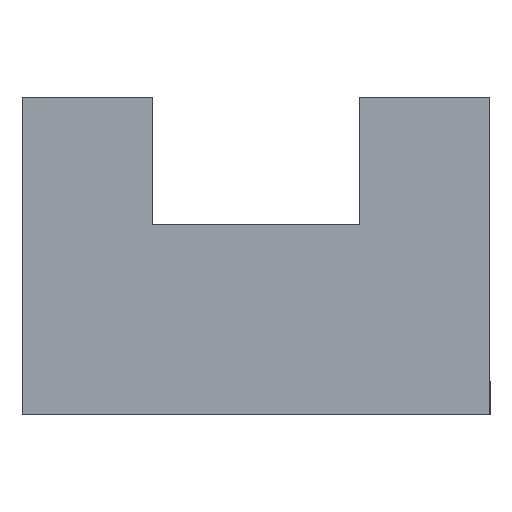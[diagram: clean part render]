
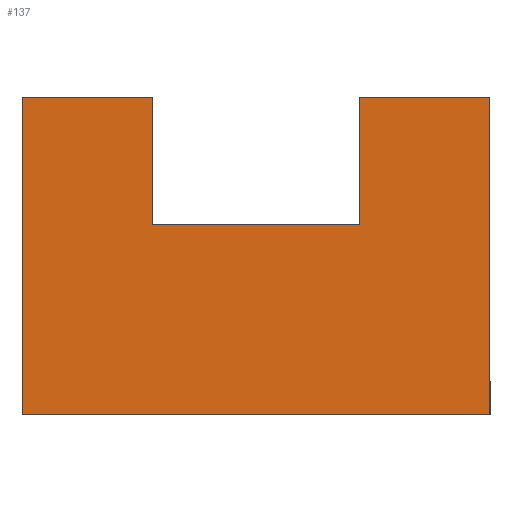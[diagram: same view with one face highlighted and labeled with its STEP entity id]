
A CAD part, left-side view. The second image highlights one B-rep face of the part: STEP entity #137.
In plain terms, the highlighted planar face has unit normal (-1, 0, 0).
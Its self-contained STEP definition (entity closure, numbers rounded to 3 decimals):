
#21 = EDGE_CURVE('',#22,#24,#26,.T.);
#22 = VERTEX_POINT('',#23);
#23 = CARTESIAN_POINT('',(-31.,-14.,0.));
#24 = VERTEX_POINT('',#25);
#25 = CARTESIAN_POINT('',(-31.,14.,0.));
#26 = SURFACE_CURVE('',#27,(#31,#43),.PCURVE_S1.);
#27 = LINE('',#28,#29);
#28 = CARTESIAN_POINT('',(-31.,-14.,0.));
#29 = VECTOR('',#30,1.);
#30 = DIRECTION('',(0.,1.,0.));
#31 = PCURVE('',#32,#37);
#32 = PLANE('',#33);
#33 = AXIS2_PLACEMENT_3D('',#34,#35,#36);
#34 = CARTESIAN_POINT('',(-31.,-14.,0.));
#35 = DIRECTION('',(0.,0.,1.));
#36 = DIRECTION('',(1.,0.,0.));
#37 = DEFINITIONAL_REPRESENTATION('',(#38),#42);
#38 = LINE('',#39,#40);
#39 = CARTESIAN_POINT('',(0.,0.));
#40 = VECTOR('',#41,1.);
#41 = DIRECTION('',(0.,1.));
#42 = ( GEOMETRIC_REPRESENTATION_CONTEXT(2) 
PARAMETRIC_REPRESENTATION_CONTEXT() REPRESENTATION_CONTEXT('2D SPACE',''
  ) );
#43 = PCURVE('',#44,#49);
#44 = PLANE('',#45);
#45 = AXIS2_PLACEMENT_3D('',#46,#47,#48);
#46 = CARTESIAN_POINT('',(-31.,26.,0.));
#47 = DIRECTION('',(1.,0.,-0.));
#48 = DIRECTION('',(0.,-1.,0.));
#49 = DEFINITIONAL_REPRESENTATION('',(#50),#54);
#50 = LINE('',#51,#52);
#51 = CARTESIAN_POINT('',(40.,0.));
#52 = VECTOR('',#53,1.);
#53 = DIRECTION('',(-1.,0.));
#54 = ( GEOMETRIC_REPRESENTATION_CONTEXT(2) 
PARAMETRIC_REPRESENTATION_CONTEXT() REPRESENTATION_CONTEXT('2D SPACE',''
  ) );
#72 = PLANE('',#73);
#73 = AXIS2_PLACEMENT_3D('',#74,#75,#76);
#74 = CARTESIAN_POINT('',(-31.,-14.,0.));
#75 = DIRECTION('',(0.,1.,0.));
#76 = DIRECTION('',(0.,0.,1.));
#126 = PLANE('',#127);
#127 = AXIS2_PLACEMENT_3D('',#128,#129,#130);
#128 = CARTESIAN_POINT('',(-31.,14.,0.));
#129 = DIRECTION('',(0.,1.,0.));
#130 = DIRECTION('',(0.,0.,1.));
#137 = ADVANCED_FACE('',(#138),#44,.F.);
#138 = FACE_BOUND('',#139,.F.);
#139 = EDGE_LOOP('',(#140,#141,#164,#192,#218,#244,#270,#298));
#140 = ORIENTED_EDGE('',*,*,#21,.T.);
#141 = ORIENTED_EDGE('',*,*,#142,.T.);
#142 = EDGE_CURVE('',#24,#143,#145,.T.);
#143 = VERTEX_POINT('',#144);
#144 = CARTESIAN_POINT('',(-31.,14.,19.));
#145 = SURFACE_CURVE('',#146,(#150,#157),.PCURVE_S1.);
#146 = LINE('',#147,#148);
#147 = CARTESIAN_POINT('',(-31.,14.,0.));
#148 = VECTOR('',#149,1.);
#149 = DIRECTION('',(0.,0.,1.));
#150 = PCURVE('',#44,#151);
#151 = DEFINITIONAL_REPRESENTATION('',(#152),#156);
#152 = LINE('',#153,#154);
#153 = CARTESIAN_POINT('',(12.,0.));
#154 = VECTOR('',#155,1.);
#155 = DIRECTION('',(0.,-1.));
#156 = ( GEOMETRIC_REPRESENTATION_CONTEXT(2) 
PARAMETRIC_REPRESENTATION_CONTEXT() REPRESENTATION_CONTEXT('2D SPACE',''
  ) );
#157 = PCURVE('',#126,#158);
#158 = DEFINITIONAL_REPRESENTATION('',(#159),#163);
#159 = LINE('',#160,#161);
#160 = CARTESIAN_POINT('',(0.,0.));
#161 = VECTOR('',#162,1.);
#162 = DIRECTION('',(1.,0.));
#163 = ( GEOMETRIC_REPRESENTATION_CONTEXT(2) 
PARAMETRIC_REPRESENTATION_CONTEXT() REPRESENTATION_CONTEXT('2D SPACE',''
  ) );
#164 = ORIENTED_EDGE('',*,*,#165,.F.);
#165 = EDGE_CURVE('',#166,#143,#168,.T.);
#166 = VERTEX_POINT('',#167);
#167 = CARTESIAN_POINT('',(-31.,6.2,19.));
#168 = SURFACE_CURVE('',#169,(#173,#180),.PCURVE_S1.);
#169 = LINE('',#170,#171);
#170 = CARTESIAN_POINT('',(-31.,-14.,19.));
#171 = VECTOR('',#172,1.);
#172 = DIRECTION('',(0.,1.,0.));
#173 = PCURVE('',#44,#174);
#174 = DEFINITIONAL_REPRESENTATION('',(#175),#179);
#175 = LINE('',#176,#177);
#176 = CARTESIAN_POINT('',(40.,-19.));
#177 = VECTOR('',#178,1.);
#178 = DIRECTION('',(-1.,0.));
#179 = ( GEOMETRIC_REPRESENTATION_CONTEXT(2) 
PARAMETRIC_REPRESENTATION_CONTEXT() REPRESENTATION_CONTEXT('2D SPACE',''
  ) );
#180 = PCURVE('',#181,#186);
#181 = PLANE('',#182);
#182 = AXIS2_PLACEMENT_3D('',#183,#184,#185);
#183 = CARTESIAN_POINT('',(-31.,-14.,19.));
#184 = DIRECTION('',(0.,0.,1.));
#185 = DIRECTION('',(1.,0.,0.));
#186 = DEFINITIONAL_REPRESENTATION('',(#187),#191);
#187 = LINE('',#188,#189);
#188 = CARTESIAN_POINT('',(0.,0.));
#189 = VECTOR('',#190,1.);
#190 = DIRECTION('',(0.,1.));
#191 = ( GEOMETRIC_REPRESENTATION_CONTEXT(2) 
PARAMETRIC_REPRESENTATION_CONTEXT() REPRESENTATION_CONTEXT('2D SPACE',''
  ) );
#192 = ORIENTED_EDGE('',*,*,#193,.F.);
#193 = EDGE_CURVE('',#194,#166,#196,.T.);
#194 = VERTEX_POINT('',#195);
#195 = CARTESIAN_POINT('',(-31.,6.2,11.4));
#196 = SURFACE_CURVE('',#197,(#201,#207),.PCURVE_S1.);
#197 = LINE('',#198,#199);
#198 = CARTESIAN_POINT('',(-31.,6.2,5.7));
#199 = VECTOR('',#200,1.);
#200 = DIRECTION('',(0.,-0.,1.));
#201 = PCURVE('',#44,#202);
#202 = DEFINITIONAL_REPRESENTATION('',(#203),#206);
#203 = B_SPLINE_CURVE_WITH_KNOTS('',1,(#204,#205),.UNSPECIFIED.,.F.,.F.,
  (2,2),(5.7,23.3),.PIECEWISE_BEZIER_KNOTS.);
#204 = CARTESIAN_POINT('',(19.8,-11.4));
#205 = CARTESIAN_POINT('',(19.8,-29.));
#206 = ( GEOMETRIC_REPRESENTATION_CONTEXT(2) 
PARAMETRIC_REPRESENTATION_CONTEXT() REPRESENTATION_CONTEXT('2D SPACE',''
  ) );
#207 = PCURVE('',#208,#213);
#208 = PLANE('',#209);
#209 = AXIS2_PLACEMENT_3D('',#210,#211,#212);
#210 = CARTESIAN_POINT('',(-34.,6.2,11.4));
#211 = DIRECTION('',(0.,1.,0.));
#212 = DIRECTION('',(0.,0.,1.));
#213 = DEFINITIONAL_REPRESENTATION('',(#214),#217);
#214 = B_SPLINE_CURVE_WITH_KNOTS('',1,(#215,#216),.UNSPECIFIED.,.F.,.F.,
  (2,2),(5.7,23.3),.PIECEWISE_BEZIER_KNOTS.);
#215 = CARTESIAN_POINT('',(0.,3.));
#216 = CARTESIAN_POINT('',(17.6,3.));
#217 = ( GEOMETRIC_REPRESENTATION_CONTEXT(2) 
PARAMETRIC_REPRESENTATION_CONTEXT() REPRESENTATION_CONTEXT('2D SPACE',''
  ) );
#218 = ORIENTED_EDGE('',*,*,#219,.T.);
#219 = EDGE_CURVE('',#194,#220,#222,.T.);
#220 = VERTEX_POINT('',#221);
#221 = CARTESIAN_POINT('',(-31.,-6.2,11.4));
#222 = SURFACE_CURVE('',#223,(#227,#233),.PCURVE_S1.);
#223 = LINE('',#224,#225);
#224 = CARTESIAN_POINT('',(-31.,9.9,11.4));
#225 = VECTOR('',#226,1.);
#226 = DIRECTION('',(0.,-1.,0.));
#227 = PCURVE('',#44,#228);
#228 = DEFINITIONAL_REPRESENTATION('',(#229),#232);
#229 = B_SPLINE_CURVE_WITH_KNOTS('',1,(#230,#231),.UNSPECIFIED.,.F.,.F.,
  (2,2),(3.7,16.1),.PIECEWISE_BEZIER_KNOTS.);
#230 = CARTESIAN_POINT('',(19.8,-11.4));
#231 = CARTESIAN_POINT('',(32.2,-11.4));
#232 = ( GEOMETRIC_REPRESENTATION_CONTEXT(2) 
PARAMETRIC_REPRESENTATION_CONTEXT() REPRESENTATION_CONTEXT('2D SPACE',''
  ) );
#233 = PCURVE('',#234,#239);
#234 = PLANE('',#235);
#235 = AXIS2_PLACEMENT_3D('',#236,#237,#238);
#236 = CARTESIAN_POINT('',(-34.,-6.2,11.4));
#237 = DIRECTION('',(0.,0.,1.));
#238 = DIRECTION('',(1.,0.,0.));
#239 = DEFINITIONAL_REPRESENTATION('',(#240),#243);
#240 = B_SPLINE_CURVE_WITH_KNOTS('',1,(#241,#242),.UNSPECIFIED.,.F.,.F.,
  (2,2),(3.7,16.1),.PIECEWISE_BEZIER_KNOTS.);
#241 = CARTESIAN_POINT('',(3.,12.4));
#242 = CARTESIAN_POINT('',(3.,0.));
#243 = ( GEOMETRIC_REPRESENTATION_CONTEXT(2) 
PARAMETRIC_REPRESENTATION_CONTEXT() REPRESENTATION_CONTEXT('2D SPACE',''
  ) );
#244 = ORIENTED_EDGE('',*,*,#245,.T.);
#245 = EDGE_CURVE('',#220,#246,#248,.T.);
#246 = VERTEX_POINT('',#247);
#247 = CARTESIAN_POINT('',(-31.,-6.2,19.));
#248 = SURFACE_CURVE('',#249,(#253,#259),.PCURVE_S1.);
#249 = LINE('',#250,#251);
#250 = CARTESIAN_POINT('',(-31.,-6.2,5.7));
#251 = VECTOR('',#252,1.);
#252 = DIRECTION('',(0.,-0.,1.));
#253 = PCURVE('',#44,#254);
#254 = DEFINITIONAL_REPRESENTATION('',(#255),#258);
#255 = B_SPLINE_CURVE_WITH_KNOTS('',1,(#256,#257),.UNSPECIFIED.,.F.,.F.,
  (2,2),(5.7,23.3),.PIECEWISE_BEZIER_KNOTS.);
#256 = CARTESIAN_POINT('',(32.2,-11.4));
#257 = CARTESIAN_POINT('',(32.2,-29.));
#258 = ( GEOMETRIC_REPRESENTATION_CONTEXT(2) 
PARAMETRIC_REPRESENTATION_CONTEXT() REPRESENTATION_CONTEXT('2D SPACE',''
  ) );
#259 = PCURVE('',#260,#265);
#260 = PLANE('',#261);
#261 = AXIS2_PLACEMENT_3D('',#262,#263,#264);
#262 = CARTESIAN_POINT('',(-34.,-6.2,11.4));
#263 = DIRECTION('',(0.,1.,0.));
#264 = DIRECTION('',(0.,0.,1.));
#265 = DEFINITIONAL_REPRESENTATION('',(#266),#269);
#266 = B_SPLINE_CURVE_WITH_KNOTS('',1,(#267,#268),.UNSPECIFIED.,.F.,.F.,
  (2,2),(5.7,23.3),.PIECEWISE_BEZIER_KNOTS.);
#267 = CARTESIAN_POINT('',(0.,3.));
#268 = CARTESIAN_POINT('',(17.6,3.));
#269 = ( GEOMETRIC_REPRESENTATION_CONTEXT(2) 
PARAMETRIC_REPRESENTATION_CONTEXT() REPRESENTATION_CONTEXT('2D SPACE',''
  ) );
#270 = ORIENTED_EDGE('',*,*,#271,.F.);
#271 = EDGE_CURVE('',#272,#246,#274,.T.);
#272 = VERTEX_POINT('',#273);
#273 = CARTESIAN_POINT('',(-31.,-14.,19.));
#274 = SURFACE_CURVE('',#275,(#279,#286),.PCURVE_S1.);
#275 = LINE('',#276,#277);
#276 = CARTESIAN_POINT('',(-31.,-14.,19.));
#277 = VECTOR('',#278,1.);
#278 = DIRECTION('',(0.,1.,0.));
#279 = PCURVE('',#44,#280);
#280 = DEFINITIONAL_REPRESENTATION('',(#281),#285);
#281 = LINE('',#282,#283);
#282 = CARTESIAN_POINT('',(40.,-19.));
#283 = VECTOR('',#284,1.);
#284 = DIRECTION('',(-1.,0.));
#285 = ( GEOMETRIC_REPRESENTATION_CONTEXT(2) 
PARAMETRIC_REPRESENTATION_CONTEXT() REPRESENTATION_CONTEXT('2D SPACE',''
  ) );
#286 = PCURVE('',#287,#292);
#287 = PLANE('',#288);
#288 = AXIS2_PLACEMENT_3D('',#289,#290,#291);
#289 = CARTESIAN_POINT('',(-31.,-14.,19.));
#290 = DIRECTION('',(0.,0.,1.));
#291 = DIRECTION('',(1.,0.,0.));
#292 = DEFINITIONAL_REPRESENTATION('',(#293),#297);
#293 = LINE('',#294,#295);
#294 = CARTESIAN_POINT('',(0.,0.));
#295 = VECTOR('',#296,1.);
#296 = DIRECTION('',(0.,1.));
#297 = ( GEOMETRIC_REPRESENTATION_CONTEXT(2) 
PARAMETRIC_REPRESENTATION_CONTEXT() REPRESENTATION_CONTEXT('2D SPACE',''
  ) );
#298 = ORIENTED_EDGE('',*,*,#299,.F.);
#299 = EDGE_CURVE('',#22,#272,#300,.T.);
#300 = SURFACE_CURVE('',#301,(#305,#312),.PCURVE_S1.);
#301 = LINE('',#302,#303);
#302 = CARTESIAN_POINT('',(-31.,-14.,0.));
#303 = VECTOR('',#304,1.);
#304 = DIRECTION('',(0.,0.,1.));
#305 = PCURVE('',#44,#306);
#306 = DEFINITIONAL_REPRESENTATION('',(#307),#311);
#307 = LINE('',#308,#309);
#308 = CARTESIAN_POINT('',(40.,0.));
#309 = VECTOR('',#310,1.);
#310 = DIRECTION('',(0.,-1.));
#311 = ( GEOMETRIC_REPRESENTATION_CONTEXT(2) 
PARAMETRIC_REPRESENTATION_CONTEXT() REPRESENTATION_CONTEXT('2D SPACE',''
  ) );
#312 = PCURVE('',#72,#313);
#313 = DEFINITIONAL_REPRESENTATION('',(#314),#318);
#314 = LINE('',#315,#316);
#315 = CARTESIAN_POINT('',(0.,0.));
#316 = VECTOR('',#317,1.);
#317 = DIRECTION('',(1.,0.));
#318 = ( GEOMETRIC_REPRESENTATION_CONTEXT(2) 
PARAMETRIC_REPRESENTATION_CONTEXT() REPRESENTATION_CONTEXT('2D SPACE',''
  ) );
